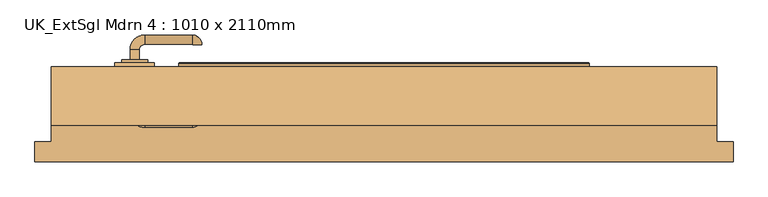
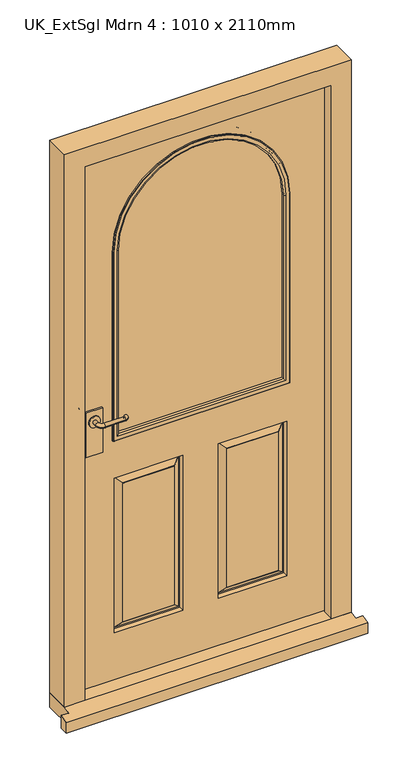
"""IFC4 building model written with IfcOpenShell, lengths in millimetres: door geometry, UK_ExtSgl Mdrn 4 : 1010 x 2110mm."""

from ifc_helpers import new_model, si_unit, point, frame, frame_2d, origin, place, context, project, spatial, polyline, circle_curve, ellipse_curve, trimmed, segment, composite_curve, outline, extrude, faceted_brep, source, transform, mapped, element, save
from ifc_brep_helpers import plane_surface, cylinder_surface, revolved_surface, advanced_brep


def uk_extsgl_mdrn_4_1010_x_2110mm_24322308(model_context):
    return source(origin(), model_context, "Body", "SolidModel", [
        extrude(outline(polyline([(-348.5, -62.2125), (-408.5, -62.2125), (-408.5, -56.2125), (-348.5, -56.2125), (-348.5, -62.2125)])), frame((0.0, 0.0, 925.0), z_axis=(0.0, 0.0, 1.0), x_axis=(1.0, 0.0, 0.0)), (0.0, 0.0, 1.0), 165.0),
        advanced_brep(
        [(-371.5, -51.6195105, 1050.0), (-385.5, -51.6195105, 1050.0), (-371.5, -36.2125, 1050.0), (-385.5, -36.2125, 1050.0), (-363.5, -14.2125, 1050.0), (-363.5, -28.2125, 1050.0), (-291.5, -28.2125, 1050.0), (-291.5, -14.2125, 1050.0), (-290.5, -29.2125, 1050.0), (-276.5, -29.2125, 1050.0)],
        [
            (0, 1, circle_curve(frame((-378.5, -51.6195105, 1050.0), z_axis=(0.0, -1.0, 0.0), x_axis=(-1.0, 0.0, 0.0)), 7.0)),
            (1, 0, circle_curve(frame((-378.5, -51.6195105, 1050.0), z_axis=(0.0, -1.0, 0.0), x_axis=(-1.0, 0.0, 0.0)), 7.0)),
            (0, 2),
            (2, 3, circle_curve(frame((-378.5, -36.2125, 1050.0), z_axis=(0.0, -1.0, 0.0), x_axis=(-1.0, 0.0, 0.0)), 7.0)),
            (3, 1),
            (3, 2, circle_curve(frame((-378.5, -36.2125, 1050.0), z_axis=(0.0, -1.0, 0.0), x_axis=(-1.0, 0.0, 0.0)), 7.0)),
            (4, 3, circle_curve(frame((-363.5, -36.2125, 1050.0), z_axis=(0.0, 0.0, 1.0), x_axis=(-1.0, 0.0, 0.0)), 22.0)),
            (2, 5, circle_curve(frame((-363.5, -36.2125, 1050.0), z_axis=(0.0, 0.0, -1.0), x_axis=(-1.0, 0.0, 0.0)), 8.0)),
            (5, 4, circle_curve(frame((-363.5, -21.2125, 1050.0), z_axis=(-1.0, 0.0, 0.0), x_axis=(0.0, 1.0, 0.0)), 7.0)),
            (4, 5, circle_curve(frame((-363.5, -21.2125, 1050.0), z_axis=(-1.0, 0.0, 0.0), x_axis=(0.0, 1.0, 0.0)), 7.0)),
            (5, 6),
            (6, 7, circle_curve(frame((-291.5, -21.2125, 1050.0), z_axis=(-1.0, 0.0, 0.0), x_axis=(0.0, 1.0, 0.0)), 7.0)),
            (7, 4),
            (7, 6, circle_curve(frame((-291.5, -21.2125, 1050.0), z_axis=(-1.0, 0.0, 0.0), x_axis=(0.0, 1.0, 0.0)), 7.0)),
            (8, 9, circle_curve(frame((-283.5, -29.2125, 1050.0), z_axis=(0.0, -1.0, 0.0), x_axis=(1.0, 0.0, 0.0)), 7.0)),
            (9, 8, circle_curve(frame((-283.5, -29.2125, 1050.0), z_axis=(0.0, -1.0, 0.0), x_axis=(1.0, 0.0, 0.0)), 7.0)),
            (9, 7, circle_curve(frame((-291.5, -29.2125, 1050.0), z_axis=(0.0, 0.0, 1.0), x_axis=(0.0, 1.0, 0.0)), 15.0)),
            (6, 8, circle_curve(frame((-291.5, -29.2125, 1050.0), z_axis=(0.0, 0.0, -1.0), x_axis=(0.0, 1.0, 0.0)), 1.0)),
        ],
        [
            plane_surface(frame((-378.5, -51.6195105, 1050.0), z_axis=(0.0, -1.0, 0.0), x_axis=(0.0, 0.0, 1.0))),
            cylinder_surface(frame((-378.5, -51.6195105, 1050.0), z_axis=(0.0, -1.0, 0.0), x_axis=(-1.0, 0.0, 0.0)), 7.0),
            revolved_surface(trimmed(ellipse_curve(frame((-378.5, -36.2125, 1050.0), z_axis=(0.0, -1.0, 0.0), x_axis=(-1.0, 0.0, 0.0)), 7.0, 7.0), [point((-371.5, -36.2125, 1050.0))], [point((-385.5, -36.2125, 1050.0))], True, "CARTESIAN"), (-363.5, -36.2125, 1050.0), (0.0, 0.0, -1.0)),
            revolved_surface(trimmed(ellipse_curve(frame((-378.5, -36.2125, 1050.0), z_axis=(0.0, -1.0, 0.0), x_axis=(-1.0, 0.0, 0.0)), 7.0, 7.0), [point((-385.5, -36.2125, 1050.0))], [point((-371.5, -36.2125, 1050.0))], True, "CARTESIAN"), (-363.5, -36.2125, 1050.0), (0.0, 0.0, -1.0)),
            cylinder_surface(frame((-363.5, -21.2125, 1050.0), z_axis=(-1.0, 0.0, 0.0), x_axis=(0.0, 1.0, 0.0)), 7.0),
            plane_surface(frame((-283.5, -29.2125, 1050.0), z_axis=(0.0, -1.0, 0.0), x_axis=(0.0, 0.0, 1.0))),
            revolved_surface(trimmed(ellipse_curve(frame((-291.5, -21.2125, 1050.0), z_axis=(-1.0, 0.0, 0.0), x_axis=(0.0, 1.0, 0.0)), 7.0, 7.0), [point((-291.5, -28.2125, 1050.0))], [point((-291.5, -14.2125, 1050.0))], True, "CARTESIAN"), (-291.5, -29.2125, 1050.0), (0.0, 0.0, -1.0)),
            revolved_surface(trimmed(ellipse_curve(frame((-291.5, -21.2125, 1050.0), z_axis=(-1.0, 0.0, 0.0), x_axis=(0.0, 1.0, 0.0)), 7.0, 7.0), [point((-291.5, -14.2125, 1050.0))], [point((-291.5, -28.2125, 1050.0))], True, "CARTESIAN"), (-291.5, -29.2125, 1050.0), (0.0, 0.0, -1.0)),
        ],
        [
            (0, [[1, 2]]),
            (1, [[-1, 3, 4, 5]]),
            (1, [[-2, -5, 6, -3]]),
            (2, [[7, -4, 8, 9]]),
            (3, [[-8, -6, -7, 10]]),
            (4, [[-9, 11, 12, 13]]),
            (4, [[-10, -13, 14, -11]]),
            (5, [[15, 16]]),
            (6, [[17, -12, 18, -16]]),
            (7, [[-18, -14, -17, -15]]),
        ],
    ),
        extrude(outline(composite_curve([segment(trimmed(circle_curve(frame_2d((1050.0, -378.5)), 20.0), [point((1050.0, -398.5))], [point((1050.0, -358.5))], False, "CARTESIAN"), True, "CONTINUOUS"), segment(trimmed(circle_curve(frame_2d((1050.0, -378.5)), 20.0), [point((1050.0, -358.5))], [point((1050.0, -398.5))], False, "CARTESIAN"), True, "CONTINUOUS")], self_intersect=False)), frame((0.0, -56.2125, 0.0), z_axis=(0.0, 1.0, 0.0), x_axis=(0.0, 0.0, 1.0)), (0.0, 0.0, 1.0), 4.5929895),
        extrude(outline(polyline([(-348.5, -106.2125), (-348.5, -112.2125), (-408.5, -112.2125), (-408.5, -106.2125), (-348.5, -106.2125)])), frame((0.0, 0.0, 925.0), z_axis=(0.0, 0.0, 1.0), x_axis=(1.0, 0.0, 0.0)), (0.0, 0.0, 1.0), 165.0),
        advanced_brep(
        [(-371.5, -116.8054895, 1050.0), (-385.5, -116.8054895, 1050.0), (-385.5, -132.2125, 1050.0), (-371.5, -132.2125, 1050.0), (-363.5, -154.2125, 1050.0), (-363.5, -140.2125, 1050.0), (-291.5, -154.2125, 1050.0), (-291.5, -140.2125, 1050.0), (-290.5, -139.2125, 1050.0), (-276.5, -139.2125, 1050.0)],
        [
            (0, 1, circle_curve(frame((-378.5, -116.8054895, 1050.0), z_axis=(0.0, 1.0, 0.0), x_axis=(-1.0, 0.0, 0.0)), 7.0)),
            (1, 0, circle_curve(frame((-378.5, -116.8054895, 1050.0), z_axis=(0.0, 1.0, 0.0), x_axis=(-1.0, 0.0, 0.0)), 7.0)),
            (1, 2),
            (2, 3, circle_curve(frame((-378.5, -132.2125, 1050.0), z_axis=(0.0, 1.0, 0.0), x_axis=(-1.0, 0.0, 0.0)), 7.0)),
            (3, 0),
            (3, 2, circle_curve(frame((-378.5, -132.2125, 1050.0), z_axis=(0.0, 1.0, 0.0), x_axis=(-1.0, 0.0, 0.0)), 7.0)),
            (4, 5, circle_curve(frame((-363.5, -147.2125, 1050.0), z_axis=(-1.0, 0.0, 0.0), x_axis=(0.0, -1.0, 0.0)), 7.0)),
            (5, 3, circle_curve(frame((-363.5, -132.2125, 1050.0), z_axis=(0.0, 0.0, -1.0), x_axis=(-1.0, 0.0, 0.0)), 8.0)),
            (2, 4, circle_curve(frame((-363.5, -132.2125, 1050.0), z_axis=(0.0, 0.0, 1.0), x_axis=(-1.0, 0.0, 0.0)), 22.0)),
            (5, 4, circle_curve(frame((-363.5, -147.2125, 1050.0), z_axis=(-1.0, 0.0, 0.0), x_axis=(0.0, -1.0, 0.0)), 7.0)),
            (4, 6),
            (6, 7, circle_curve(frame((-291.5, -147.2125, 1050.0), z_axis=(-1.0, 0.0, 0.0), x_axis=(0.0, -1.0, 0.0)), 7.0)),
            (7, 5),
            (7, 6, circle_curve(frame((-291.5, -147.2125, 1050.0), z_axis=(-1.0, 0.0, 0.0), x_axis=(0.0, -1.0, 0.0)), 7.0)),
            (8, 9, circle_curve(frame((-283.5, -139.2125, 1050.0), z_axis=(0.0, 1.0, 0.0), x_axis=(1.0, 0.0, 0.0)), 7.0)),
            (9, 8, circle_curve(frame((-283.5, -139.2125, 1050.0), z_axis=(0.0, 1.0, 0.0), x_axis=(1.0, 0.0, 0.0)), 7.0)),
            (8, 7, circle_curve(frame((-291.5, -139.2125, 1050.0), z_axis=(0.0, 0.0, -1.0), x_axis=(0.0, -1.0, 0.0)), 1.0)),
            (6, 9, circle_curve(frame((-291.5, -139.2125, 1050.0), z_axis=(0.0, 0.0, 1.0), x_axis=(0.0, -1.0, 0.0)), 15.0)),
        ],
        [
            plane_surface(frame((-378.5, -116.8054895, 1050.0), z_axis=(0.0, 1.0, 0.0), x_axis=(0.0, 0.0, 1.0))),
            cylinder_surface(frame((-378.5, -116.8054895, 1050.0), z_axis=(0.0, 1.0, 0.0), x_axis=(-1.0, 0.0, 0.0)), 7.0),
            revolved_surface(trimmed(ellipse_curve(frame((-378.5, -132.2125, 1050.0), z_axis=(0.0, -1.0, 0.0), x_axis=(-1.0, 0.0, 0.0)), 7.0, 7.0), [point((-371.5, -132.2125, 1050.0))], [point((-385.5, -132.2125, 1050.0))], True, "CARTESIAN"), (-363.5, -132.2125, 1050.0), (0.0, 0.0, -1.0)),
            revolved_surface(trimmed(ellipse_curve(frame((-378.5, -132.2125, 1050.0), z_axis=(0.0, -1.0, 0.0), x_axis=(-1.0, 0.0, 0.0)), 7.0, 7.0), [point((-385.5, -132.2125, 1050.0))], [point((-371.5, -132.2125, 1050.0))], True, "CARTESIAN"), (-363.5, -132.2125, 1050.0), (0.0, 0.0, -1.0)),
            cylinder_surface(frame((-363.5, -147.2125, 1050.0), z_axis=(-1.0, 0.0, 0.0), x_axis=(0.0, -1.0, 0.0)), 7.0),
            plane_surface(frame((-283.5, -139.2125, 1050.0), z_axis=(0.0, 1.0, 0.0), x_axis=(0.0, 0.0, 1.0))),
            revolved_surface(trimmed(ellipse_curve(frame((-291.5, -147.2125, 1050.0), z_axis=(1.0, 0.0, 0.0), x_axis=(0.0, -1.0, 0.0)), 7.0, 7.0), [point((-291.5, -140.2125, 1050.0))], [point((-291.5, -154.2125, 1050.0))], True, "CARTESIAN"), (-291.5, -139.2125, 1050.0), (0.0, 0.0, -1.0)),
            revolved_surface(trimmed(ellipse_curve(frame((-291.5, -147.2125, 1050.0), z_axis=(1.0, 0.0, 0.0), x_axis=(0.0, -1.0, 0.0)), 7.0, 7.0), [point((-291.5, -154.2125, 1050.0))], [point((-291.5, -140.2125, 1050.0))], True, "CARTESIAN"), (-291.5, -139.2125, 1050.0), (0.0, 0.0, -1.0)),
        ],
        [
            (0, [[1, 2]]),
            (1, [[3, 4, 5, -2]]),
            (1, [[-5, 6, -3, -1]]),
            (2, [[7, 8, -4, 9]]),
            (3, [[10, -9, -6, -8]]),
            (4, [[11, 12, 13, -7]]),
            (4, [[-13, 14, -11, -10]]),
            (5, [[15, 16]]),
            (6, [[-15, 17, -12, 18]]),
            (7, [[-16, -18, -14, -17]]),
        ],
    ),
        extrude(outline(composite_curve([segment(trimmed(circle_curve(frame_2d((1050.0, -378.5)), 20.0), [point((1050.0, -398.5))], [point((1050.0, -358.5))], False, "CARTESIAN"), True, "CONTINUOUS"), segment(trimmed(circle_curve(frame_2d((1050.0, -378.5)), 20.0), [point((1050.0, -358.5))], [point((1050.0, -398.5))], False, "CARTESIAN"), True, "CONTINUOUS")], self_intersect=False)), frame((0.0, -116.8054895, 0.0), z_axis=(0.0, 1.0, 0.0), x_axis=(0.0, 0.0, 1.0)), (0.0, 0.0, 1.0), 4.5929895),
        faceted_brep([(434.5, -151.2125, 54.5), (434.5, -109.2125, 54.5), (456.5, -109.2125, 54.5), (456.5, -62.2125, 54.5), (505.0, -62.2125, 54.5), (505.0, -151.2125, 54.5), (505.0, -151.2125, 2110.0), (-505.0, -151.2125, 2110.0), (-505.0, -151.2125, 54.5), (-434.5, -151.2125, 54.5), (-434.5, -151.2125, 2039.5), (434.5, -151.2125, 2039.5), (505.0, -62.2125, 2110.0), (456.5, -62.2125, 2061.5), (-456.5, -62.2125, 2061.5), (-456.5, -62.2125, 54.5), (-505.0, -62.2125, 54.5), (-505.0, -62.2125, 2110.0), (456.5, -109.2125, 2061.5), (434.5, -109.2125, 2039.5), (-434.5, -109.2125, 2039.5), (-434.5, -109.2125, 54.5), (-456.5, -109.2125, 54.5), (-456.5, -109.2125, 2061.5)], [[[0, 1, 2, 3, 4, 5]], [[5, 6, 7, 8, 9, 10, 11, 0]], [[4, 12, 6, 5]], [[3, 13, 14, 15, 16, 17, 12, 4]], [[2, 18, 13, 3]], [[1, 19, 20, 21, 22, 23, 18, 2]], [[0, 11, 19, 1]], [[6, 12, 17, 7]], [[13, 18, 23, 14]], [[10, 20, 19, 11]], [[8, 16, 15, 22, 21, 9]], [[7, 17, 16, 8]], [[14, 23, 22, 15]], [[9, 21, 20, 10]]]),
        extrude(outline(composite_curve([segment(polyline([(958.5, -303.5), (958.5, 303.5), (1655.0, 303.5)]), True, "CONTINUOUS"), segment(trimmed(circle_curve(frame_2d((1655.0, 0.0)), 303.5), [point((1655.0, 303.5))], [point((1655.0, -303.5))], False, "CARTESIAN"), True, "CONTINUOUS"), segment(polyline([(1655.0, -303.5), (958.5, -303.5)]), True, "CONTINUOUS")], self_intersect=False)), frame((0.0, -96.2125, 0.0), z_axis=(0.0, 1.0, 0.0), x_axis=(0.0, 0.0, 1.0)), (0.0, 0.0, 1.0), 24.0),
        faceted_brep([(530.0, -206.2125, 0.0), (530.0, -176.2125, 0.0), (530.0, -176.2125, 47.2703282), (530.0, -206.2125, 38.5947221), (-530.0, -206.2125, 38.5947221), (-530.0, -176.2125, 47.2703282), (-530.0, -176.2125, 0.0), (-530.0, -206.2125, 0.0), (-505.0, -176.2125, 0.0), (-505.0, -62.2125, 0.0), (505.0, -62.2125, 0.0), (505.0, -176.2125, 0.0), (505.0, -176.2125, 47.2703282), (505.0, -151.2125, 54.5), (-505.0, -151.2125, 54.5), (-505.0, -176.2125, 47.2703282), (505.0, -62.2125, 54.5), (-505.0, -62.2125, 54.5)], [[[0, 1, 2, 3]], [[4, 5, 6, 7]], [[7, 6, 8, 9, 10, 11, 1, 0]], [[3, 4, 7, 0]], [[3, 2, 12, 13, 14, 15, 5, 4]], [[14, 13, 16, 17]], [[17, 16, 10, 9]], [[15, 14, 17, 9, 8]], [[8, 6, 5, 15]], [[11, 10, 16, 13, 12]], [[12, 2, 1, 11]]]),
        advanced_brep(
        [(453.5, -62.2125, 58.5), (-454.4250294, -62.2125, 58.5), (-454.4250294, -62.2125, 2058.5), (453.5, -62.2125, 2058.5), (-303.5, -62.2125, 958.5), (303.5, -62.2125, 958.5), (303.5, -62.2125, 1655.0), (-303.5, -62.2125, 1655.0), (-62.5, -62.2125, 808.5), (-303.5, -62.2125, 808.5), (-303.5, -62.2125, 233.5), (-62.5, -62.2125, 233.5), (303.5, -62.2125, 808.5), (62.5, -62.2125, 808.5), (62.5, -62.2125, 233.5), (303.5, -62.2125, 233.5), (-92.5, -62.2125, 263.5), (-273.5, -62.2125, 263.5), (-273.5, -62.2125, 778.5), (-92.5, -62.2125, 778.5), (273.5, -62.2125, 263.5), (92.5, -62.2125, 263.5), (92.5, -62.2125, 778.5), (273.5, -62.2125, 778.5), (453.5, -106.2125, 58.5), (453.5, -106.2125, 2058.5), (-454.4250294, -106.2125, 2058.5), (-454.4250294, -106.2125, 58.5), (-303.5, -106.2125, 958.5), (-303.5, -106.2125, 1655.0), (303.5, -106.2125, 1655.0), (303.5, -106.2125, 958.5), (62.5, -106.2125, 808.5), (303.5, -106.2125, 808.5), (303.5, -106.2125, 233.5), (62.5, -106.2125, 233.5), (-303.5, -106.2125, 808.5), (-62.5, -106.2125, 808.5), (-62.5, -106.2125, 233.5), (-303.5, -106.2125, 233.5), (92.5, -106.2125, 263.5), (273.5, -106.2125, 263.5), (273.5, -106.2125, 778.5), (92.5, -106.2125, 778.5), (-273.5, -106.2125, 263.5), (-92.5, -106.2125, 263.5), (-92.5, -106.2125, 778.5), (-273.5, -106.2125, 778.5), (65.5, -91.2125, 805.5), (65.5, -91.2125, 236.5), (90.5, -105.2125, 780.5), (70.5, -91.2125, 800.5), (70.5, -91.2125, 241.5), (90.5, -105.2125, 261.5), (92.5, -105.2125, 778.5), (92.5, -105.2125, 263.5), (300.5, -91.2125, 236.5), (295.5, -91.2125, 241.5), (275.5, -105.2125, 261.5), (273.5, -105.2125, 263.5), (300.5, -91.2125, 805.5), (295.5, -91.2125, 800.5), (275.5, -105.2125, 780.5), (273.5, -105.2125, 778.5), (-300.5, -91.2125, 805.5), (-300.5, -91.2125, 236.5), (-275.5, -105.2125, 780.5), (-295.5, -91.2125, 800.5), (-295.5, -91.2125, 241.5), (-275.5, -105.2125, 261.5), (-273.5, -105.2125, 778.5), (-273.5, -105.2125, 263.5), (-65.5, -91.2125, 236.5), (-70.5, -91.2125, 241.5), (-90.5, -105.2125, 261.5), (-92.5, -105.2125, 263.5), (-65.5, -91.2125, 805.5), (-70.5, -91.2125, 800.5), (-90.5, -105.2125, 780.5), (-92.5, -105.2125, 778.5), (-92.5, -63.2125, 263.5), (-92.5, -63.2125, 778.5), (-70.5, -77.2125, 241.5), (-90.5, -63.2125, 261.5), (-90.5, -63.2125, 780.5), (-70.5, -77.2125, 800.5), (-65.5, -77.2125, 236.5), (-65.5, -77.2125, 805.5), (-273.5, -63.2125, 778.5), (-275.5, -63.2125, 780.5), (-295.5, -77.2125, 800.5), (-300.5, -77.2125, 805.5), (-273.5, -63.2125, 263.5), (-275.5, -63.2125, 261.5), (-295.5, -77.2125, 241.5), (-300.5, -77.2125, 236.5), (300.5, -77.2125, 805.5), (300.5, -77.2125, 236.5), (275.5, -63.2125, 780.5), (295.5, -77.2125, 800.5), (295.5, -77.2125, 241.5), (275.5, -63.2125, 261.5), (273.5, -63.2125, 778.5), (273.5, -63.2125, 263.5), (65.5, -77.2125, 236.5), (70.5, -77.2125, 241.5), (90.5, -63.2125, 261.5), (92.5, -63.2125, 263.5), (65.5, -77.2125, 805.5), (70.5, -77.2125, 800.5), (90.5, -63.2125, 780.5), (92.5, -63.2125, 778.5)],
        [
            (0, 1),
            (1, 2),
            (2, 3),
            (3, 0),
            (4, 5),
            (5, 6),
            (6, 7, circle_curve(frame((0.0, -62.2125, 1655.0), z_axis=(0.0, -1.0, 0.0), x_axis=(1.0, 0.0, 0.0)), 303.5)),
            (7, 4),
            (8, 9),
            (9, 10),
            (10, 11),
            (11, 8),
            (12, 13),
            (13, 14),
            (14, 15),
            (15, 12),
            (16, 17),
            (17, 18),
            (18, 19),
            (19, 16),
            (20, 21),
            (21, 22),
            (22, 23),
            (23, 20),
            (24, 25),
            (25, 26),
            (26, 27),
            (27, 24),
            (28, 29),
            (29, 30, circle_curve(frame((0.0, -106.2125, 1655.0), z_axis=(0.0, 1.0, 0.0), x_axis=(1.0, 0.0, 0.0)), 303.5)),
            (30, 31),
            (31, 28),
            (32, 33),
            (33, 34),
            (34, 35),
            (35, 32),
            (36, 37),
            (37, 38),
            (38, 39),
            (39, 36),
            (40, 41),
            (41, 42),
            (42, 43),
            (43, 40),
            (44, 45),
            (45, 46),
            (46, 47),
            (47, 44),
            (3, 25),
            (24, 0),
            (2, 26),
            (1, 27),
            (7, 29),
            (28, 4),
            (6, 30),
            (5, 31),
            (48, 32),
            (35, 49),
            (49, 48),
            (50, 51),
            (51, 52),
            (52, 53),
            (53, 50),
            (43, 54),
            (54, 55),
            (55, 40),
            (34, 56),
            (56, 49),
            (52, 57),
            (57, 58),
            (58, 53),
            (55, 59),
            (59, 41),
            (33, 60),
            (60, 56),
            (57, 61),
            (61, 62),
            (62, 58),
            (59, 63),
            (63, 42),
            (48, 60),
            (51, 61),
            (50, 62),
            (54, 63),
            (64, 36),
            (39, 65),
            (65, 64),
            (66, 67),
            (67, 68),
            (68, 69),
            (69, 66),
            (47, 70),
            (70, 71),
            (71, 44),
            (38, 72),
            (72, 65),
            (68, 73),
            (73, 74),
            (74, 69),
            (71, 75),
            (75, 45),
            (37, 76),
            (76, 72),
            (73, 77),
            (77, 78),
            (78, 74),
            (75, 79),
            (79, 46),
            (64, 76),
            (67, 77),
            (66, 78),
            (70, 79),
            (80, 16),
            (19, 81),
            (81, 80),
            (82, 83),
            (83, 84),
            (84, 85),
            (85, 82),
            (11, 86),
            (86, 87),
            (87, 8),
            (18, 88),
            (88, 81),
            (84, 89),
            (89, 90),
            (90, 85),
            (87, 91),
            (91, 9),
            (17, 92),
            (92, 88),
            (89, 93),
            (93, 94),
            (94, 90),
            (91, 95),
            (95, 10),
            (80, 92),
            (83, 93),
            (82, 94),
            (86, 95),
            (96, 12),
            (15, 97),
            (97, 96),
            (98, 99),
            (99, 100),
            (100, 101),
            (101, 98),
            (23, 102),
            (102, 103),
            (103, 20),
            (14, 104),
            (104, 97),
            (100, 105),
            (105, 106),
            (106, 101),
            (103, 107),
            (107, 21),
            (13, 108),
            (108, 104),
            (105, 109),
            (109, 110),
            (110, 106),
            (107, 111),
            (111, 22),
            (96, 108),
            (99, 109),
            (98, 110),
            (102, 111),
        ],
        [
            plane_surface(frame((453.5, -62.2125, 58.5), z_axis=(0.0, 1.0, 0.0), x_axis=(0.0, 0.0, 1.0))),
            plane_surface(frame((453.5, -106.2125, 58.5), z_axis=(0.0, -1.0, 0.0), x_axis=(0.0, 0.0, -1.0))),
            plane_surface(frame((453.5, -62.2125, 58.5), z_axis=(1.0, 0.0, 0.0), x_axis=(0.0, -1.0, 0.0))),
            plane_surface(frame((453.5, -62.2125, 2058.5), z_axis=(0.0, 0.0, 1.0), x_axis=(0.0, -1.0, 0.0))),
            plane_surface(frame((-454.4250294, -62.2125, 2058.5), z_axis=(-1.0, 0.0, 0.0), x_axis=(0.0, -1.0, 0.0))),
            plane_surface(frame((-454.4250294, -62.2125, 58.5), z_axis=(0.0, 0.0, -1.0), x_axis=(0.0, -1.0, 0.0))),
            plane_surface(frame((-303.5, -62.2125, 958.5), z_axis=(1.0, 0.0, 0.0), x_axis=(0.0, -1.0, 0.0))),
            revolved_surface(polyline([(303.5, -106.2125, 1655.0), (303.5, -62.2125, 1655.0)]), (0.0, -62.2125, 1655.0), (0.0, -1.0, 0.0)),
            plane_surface(frame((303.5, -62.2125, 1655.0), z_axis=(-1.0, 0.0, 0.0), x_axis=(0.0, -1.0, 0.0))),
            plane_surface(frame((303.5, -62.2125, 958.5), z_axis=(0.0, 0.0, 1.0), x_axis=(0.0, -1.0, 0.0))),
            plane_surface(frame((62.5, -106.2125, 808.5), z_axis=(0.9805806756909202, -0.19611613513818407, 0.0), x_axis=(0.0, 0.0, -1.0))),
            plane_surface(frame((70.5, -91.2125, 800.5), z_axis=(-0.5734623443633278, -0.8192319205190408, 0.0), x_axis=(0.0, 0.0, -1.0))),
            plane_surface(frame((92.5, -105.2125, 778.5), z_axis=(-1.0, 0.0, 0.0), x_axis=(0.0, 0.0, -1.0))),
            plane_surface(frame((62.5, -106.2125, 233.5), z_axis=(0.0, -0.19611613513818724, 0.9805806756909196), x_axis=(1.0, 0.0, 0.0))),
            plane_surface(frame((70.5, -91.2125, 241.5), z_axis=(0.0, -0.819231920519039, -0.5734623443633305), x_axis=(1.0, 0.0, 0.0))),
            plane_surface(frame((92.5, -105.2125, 263.5), z_axis=(0.0, 0.0, -1.0), x_axis=(1.0, 0.0, 0.0))),
            plane_surface(frame((303.5, -106.2125, 233.5), z_axis=(-0.9805806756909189, -0.1961161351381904, 0.0), x_axis=(0.0, 0.0, 1.0))),
            plane_surface(frame((295.5, -91.2125, 241.5), z_axis=(0.5734623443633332, -0.8192319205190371, 0.0), x_axis=(0.0, 0.0, 1.0))),
            plane_surface(frame((273.5, -105.2125, 263.5), z_axis=(1.0, 0.0, 0.0), x_axis=(0.0, 0.0, 1.0))),
            plane_surface(frame((303.5, -106.2125, 808.5), z_axis=(0.0, -0.19611613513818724, -0.9805806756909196), x_axis=(-1.0, 0.0, 0.0))),
            plane_surface(frame((300.5, -91.2125, 805.5), z_axis=(0.0, -1.0, 0.0), x_axis=(-1.0, 0.0, 0.0))),
            plane_surface(frame((295.5, -91.2125, 800.5), z_axis=(0.0, -0.819231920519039, 0.5734623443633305), x_axis=(-1.0, 0.0, 0.0))),
            plane_surface(frame((275.5, -105.2125, 780.5), z_axis=(0.0, -1.0, 0.0), x_axis=(-1.0, 0.0, 0.0))),
            plane_surface(frame((273.5, -105.2125, 778.5), z_axis=(0.0, 0.0, 1.0), x_axis=(-1.0, 0.0, 0.0))),
            plane_surface(frame((-303.5, -106.2125, 808.5), z_axis=(0.9805806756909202, -0.19611613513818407, 0.0), x_axis=(0.0, 0.0, -1.0))),
            plane_surface(frame((-295.5, -91.2125, 800.5), z_axis=(-0.5734623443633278, -0.8192319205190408, 0.0), x_axis=(0.0, 0.0, -1.0))),
            plane_surface(frame((-273.5, -105.2125, 778.5), z_axis=(-1.0, 0.0, 0.0), x_axis=(0.0, 0.0, -1.0))),
            plane_surface(frame((-303.5, -106.2125, 233.5), z_axis=(0.0, -0.19611613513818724, 0.9805806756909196), x_axis=(1.0, 0.0, 0.0))),
            plane_surface(frame((-295.5, -91.2125, 241.5), z_axis=(0.0, -0.819231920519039, -0.5734623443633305), x_axis=(1.0, 0.0, 0.0))),
            plane_surface(frame((-273.5, -105.2125, 263.5), z_axis=(0.0, 0.0, -1.0), x_axis=(1.0, 0.0, 0.0))),
            plane_surface(frame((-62.5, -106.2125, 233.5), z_axis=(-0.9805806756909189, -0.1961161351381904, 0.0), x_axis=(0.0, 0.0, 1.0))),
            plane_surface(frame((-70.5, -91.2125, 241.5), z_axis=(0.5734623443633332, -0.8192319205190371, 0.0), x_axis=(0.0, 0.0, 1.0))),
            plane_surface(frame((-92.5, -105.2125, 263.5), z_axis=(1.0, 0.0, 0.0), x_axis=(0.0, 0.0, 1.0))),
            plane_surface(frame((-62.5, -106.2125, 808.5), z_axis=(0.0, -0.19611613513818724, -0.9805806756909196), x_axis=(-1.0, 0.0, 0.0))),
            plane_surface(frame((-65.5, -91.2125, 805.5), z_axis=(0.0, -1.0, 0.0), x_axis=(-1.0, 0.0, 0.0))),
            plane_surface(frame((-70.5, -91.2125, 800.5), z_axis=(0.0, -0.819231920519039, 0.5734623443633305), x_axis=(-1.0, 0.0, 0.0))),
            plane_surface(frame((-90.5, -105.2125, 780.5), z_axis=(0.0, -1.0, 0.0), x_axis=(-1.0, 0.0, 0.0))),
            plane_surface(frame((-92.5, -105.2125, 778.5), z_axis=(0.0, 0.0, 1.0), x_axis=(-1.0, 0.0, 0.0))),
            plane_surface(frame((-92.5, -62.2125, 263.5), z_axis=(1.0, 0.0, 0.0), x_axis=(0.0, 0.0, 1.0))),
            plane_surface(frame((-90.5, -63.2125, 261.5), z_axis=(0.5734623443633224, 0.8192319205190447, 0.0), x_axis=(0.0, 0.0, 1.0))),
            plane_surface(frame((-65.5, -77.2125, 236.5), z_axis=(-0.9805806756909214, 0.1961161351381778, 0.0), x_axis=(0.0, 0.0, 1.0))),
            plane_surface(frame((-92.5, -62.2125, 778.5), z_axis=(0.0, 0.0, 1.0), x_axis=(-1.0, 0.0, 0.0))),
            plane_surface(frame((-90.5, -63.2125, 780.5), z_axis=(0.0, 0.8192319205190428, 0.5734623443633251), x_axis=(-1.0, 0.0, 0.0))),
            plane_surface(frame((-65.5, -77.2125, 805.5), z_axis=(0.0, 0.19611613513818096, -0.9805806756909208), x_axis=(-1.0, 0.0, 0.0))),
            plane_surface(frame((-273.5, -62.2125, 778.5), z_axis=(-1.0, 0.0, 0.0), x_axis=(0.0, 0.0, -1.0))),
            plane_surface(frame((-275.5, -63.2125, 780.5), z_axis=(-0.5734623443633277, 0.8192319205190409, 0.0), x_axis=(0.0, 0.0, -1.0))),
            plane_surface(frame((-300.5, -77.2125, 805.5), z_axis=(0.9805806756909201, 0.19611613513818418, 0.0), x_axis=(0.0, 0.0, -1.0))),
            plane_surface(frame((-273.5, -62.2125, 263.5), z_axis=(0.0, 0.0, -1.0), x_axis=(1.0, 0.0, 0.0))),
            plane_surface(frame((-273.5, -63.2125, 263.5), z_axis=(0.0, 1.0, 0.0), x_axis=(1.0, 0.0, 0.0))),
            plane_surface(frame((-275.5, -63.2125, 261.5), z_axis=(0.0, 0.8192319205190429, -0.573462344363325), x_axis=(1.0, 0.0, 0.0))),
            plane_surface(frame((-295.5, -77.2125, 241.5), z_axis=(0.0, 1.0, 0.0), x_axis=(1.0, 0.0, 0.0))),
            plane_surface(frame((-300.5, -77.2125, 236.5), z_axis=(0.0, 0.19611613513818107, 0.9805806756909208), x_axis=(1.0, 0.0, 0.0))),
            plane_surface(frame((303.5, -62.2125, 808.5), z_axis=(-0.9805806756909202, 0.19611613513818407, 0.0), x_axis=(0.0, 0.0, -1.0))),
            plane_surface(frame((295.5, -77.2125, 800.5), z_axis=(0.5734623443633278, 0.8192319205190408, 0.0), x_axis=(0.0, 0.0, -1.0))),
            plane_surface(frame((273.5, -63.2125, 778.5), z_axis=(1.0, 0.0, 0.0), x_axis=(0.0, 0.0, -1.0))),
            plane_surface(frame((303.5, -62.2125, 233.5), z_axis=(0.0, 0.19611613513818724, 0.9805806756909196), x_axis=(-1.0, 0.0, 0.0))),
            plane_surface(frame((295.5, -77.2125, 241.5), z_axis=(0.0, 0.819231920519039, -0.5734623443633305), x_axis=(-1.0, 0.0, 0.0))),
            plane_surface(frame((273.5, -63.2125, 263.5), z_axis=(0.0, 0.0, -1.0), x_axis=(-1.0, 0.0, 0.0))),
            plane_surface(frame((62.5, -62.2125, 233.5), z_axis=(0.9805806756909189, 0.19611613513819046, 0.0), x_axis=(0.0, 0.0, 1.0))),
            plane_surface(frame((70.5, -77.2125, 241.5), z_axis=(-0.5734623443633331, 0.8192319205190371, 0.0), x_axis=(0.0, 0.0, 1.0))),
            plane_surface(frame((92.5, -63.2125, 263.5), z_axis=(-1.0, 0.0, 0.0), x_axis=(0.0, 0.0, 1.0))),
            plane_surface(frame((62.5, -62.2125, 808.5), z_axis=(0.0, 0.19611613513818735, -0.9805806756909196), x_axis=(1.0, 0.0, 0.0))),
            plane_surface(frame((65.5, -77.2125, 805.5), z_axis=(0.0, 1.0, 0.0), x_axis=(1.0, 0.0, 0.0))),
            plane_surface(frame((70.5, -77.2125, 800.5), z_axis=(0.0, 0.819231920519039, 0.5734623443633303), x_axis=(1.0, 0.0, 0.0))),
            plane_surface(frame((90.5, -63.2125, 780.5), z_axis=(0.0, 1.0, 0.0), x_axis=(1.0, 0.0, 0.0))),
            plane_surface(frame((92.5, -63.2125, 778.5), z_axis=(0.0, 0.0, 1.0), x_axis=(1.0, 0.0, 0.0))),
        ],
        [
            (0, [[1, 2, 3, 4], [5, 6, 7, 8], [9, 10, 11, 12], [13, 14, 15, 16]]),
            (0, [[17, 18, 19, 20]]),
            (0, [[21, 22, 23, 24]]),
            (1, [[25, 26, 27, 28], [29, 30, 31, 32], [33, 34, 35, 36], [37, 38, 39, 40]]),
            (1, [[41, 42, 43, 44]]),
            (1, [[45, 46, 47, 48]]),
            (2, [[49, -25, 50, -4]]),
            (3, [[51, -26, -49, -3]]),
            (4, [[52, -27, -51, -2]]),
            (5, [[-50, -28, -52, -1]]),
            (6, [[53, -29, 54, -8]]),
            (7, [[55, -30, -53, -7]]),
            (8, [[56, -31, -55, -6]]),
            (9, [[-54, -32, -56, -5]]),
            (10, [[57, -36, 58, 59]]),
            (11, [[60, 61, 62, 63]]),
            (12, [[-44, 64, 65, 66]]),
            (13, [[-35, 67, 68, -58]]),
            (14, [[69, 70, 71, -62]]),
            (15, [[72, 73, -41, -66]]),
            (16, [[-34, 74, 75, -67]]),
            (17, [[76, 77, 78, -70]]),
            (18, [[79, 80, -42, -73]]),
            (19, [[81, -74, -33, -57]]),
            (20, [[-68, -75, -81, -59], [82, -76, -69, -61]]),
            (21, [[83, -77, -82, -60]]),
            (22, [[-71, -78, -83, -63], [84, -79, -72, -65]]),
            (23, [[-43, -80, -84, -64]]),
            (24, [[85, -40, 86, 87]]),
            (25, [[88, 89, 90, 91]]),
            (26, [[-48, 92, 93, 94]]),
            (27, [[-39, 95, 96, -86]]),
            (28, [[97, 98, 99, -90]]),
            (29, [[100, 101, -45, -94]]),
            (30, [[-38, 102, 103, -95]]),
            (31, [[104, 105, 106, -98]]),
            (32, [[107, 108, -46, -101]]),
            (33, [[109, -102, -37, -85]]),
            (34, [[-96, -103, -109, -87], [110, -104, -97, -89]]),
            (35, [[111, -105, -110, -88]]),
            (36, [[-99, -106, -111, -91], [112, -107, -100, -93]]),
            (37, [[-47, -108, -112, -92]]),
            (38, [[113, -20, 114, 115]]),
            (39, [[116, 117, 118, 119]]),
            (40, [[-12, 120, 121, 122]]),
            (41, [[-19, 123, 124, -114]]),
            (42, [[125, 126, 127, -118]]),
            (43, [[128, 129, -9, -122]]),
            (44, [[-18, 130, 131, -123]]),
            (45, [[132, 133, 134, -126]]),
            (46, [[135, 136, -10, -129]]),
            (47, [[137, -130, -17, -113]]),
            (48, [[138, -132, -125, -117], [-124, -131, -137, -115]]),
            (49, [[139, -133, -138, -116]]),
            (50, [[140, -135, -128, -121], [-127, -134, -139, -119]]),
            (51, [[-11, -136, -140, -120]]),
            (52, [[141, -16, 142, 143]]),
            (53, [[144, 145, 146, 147]]),
            (54, [[-24, 148, 149, 150]]),
            (55, [[-15, 151, 152, -142]]),
            (56, [[153, 154, 155, -146]]),
            (57, [[156, 157, -21, -150]]),
            (58, [[-14, 158, 159, -151]]),
            (59, [[160, 161, 162, -154]]),
            (60, [[163, 164, -22, -157]]),
            (61, [[165, -158, -13, -141]]),
            (62, [[-152, -159, -165, -143], [166, -160, -153, -145]]),
            (63, [[167, -161, -166, -144]]),
            (64, [[-155, -162, -167, -147], [168, -163, -156, -149]]),
            (65, [[-23, -164, -168, -148]]),
        ],
    ),
        advanced_brep(
        [(311.5, -58.2125, 950.5), (311.5, -58.2125, 1655.0), (311.5, -62.2125, 1655.0), (311.5, -62.2125, 950.5), (309.5, -56.2125, 952.5), (309.5, -56.2125, 1655.0), (291.5, -61.2125, 970.5), (291.5, -61.2125, 1655.0), (296.5, -56.2125, 1655.0), (296.5, -56.2125, 965.5), (291.5, -72.2125, 970.5), (291.5, -72.2125, 1655.0), (303.5, -62.2125, 958.5), (303.5, -62.2125, 1655.0), (303.5, -72.2125, 1655.0), (303.5, -72.2125, 958.5), (-311.5, -58.2125, 1655.0), (-311.5, -62.2125, 1655.0), (-309.5, -56.2125, 1655.0), (-309.5, -56.2125, 952.5), (-296.5, -56.2125, 1655.0), (-296.5, -56.2125, 965.5), (-291.5, -61.2125, 1655.0), (-291.5, -72.2125, 1655.0), (-303.5, -72.2125, 1655.0), (-303.5, -72.2125, 958.5), (-291.5, -72.2125, 970.5), (-303.5, -62.2125, 1655.0), (-311.5, -62.2125, 950.5), (-303.5, -62.2125, 958.5), (-311.5, -58.2125, 950.5), (-291.5, -61.2125, 970.5)],
        [
            (0, 1),
            (1, 2),
            (2, 3),
            (3, 0),
            (4, 5),
            (5, 1, circle_curve(frame((309.5, -58.2125, 1655.0), z_axis=(0.0, 0.0, -1.0), x_axis=(1.0, 0.0, 0.0)), 2.0)),
            (0, 4, ellipse_curve(frame((309.5, -58.2125, 952.5), z_axis=(0.707106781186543, 0.0, 0.707106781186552), x_axis=(0.707106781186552, 0.0, -0.707106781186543)), 2.8284271, 2.0)),
            (6, 7),
            (7, 8, circle_curve(frame((296.5, -61.2125, 1655.0), z_axis=(0.0, 0.0, -1.0), x_axis=(1.0, 0.0, 0.0)), 5.0)),
            (8, 9),
            (9, 6, ellipse_curve(frame((296.5, -61.2125, 965.5), z_axis=(0.707106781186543, 0.0, 0.707106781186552), x_axis=(0.707106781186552, 0.0, -0.707106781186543)), 7.0710678, 5.0)),
            (10, 11),
            (11, 7),
            (6, 10),
            (12, 13),
            (13, 14),
            (14, 15),
            (15, 12),
            (16, 17),
            (17, 2, circle_curve(frame((0.0, -62.2125, 1655.0), z_axis=(0.0, 1.0, 0.0), x_axis=(1.0, 0.0, 0.0)), 311.5)),
            (1, 16, circle_curve(frame((0.0, -58.2125, 1655.0), z_axis=(0.0, -1.0, 0.0), x_axis=(1.0, 0.0, 0.0)), 311.5)),
            (18, 16, circle_curve(frame((-309.5, -58.2125, 1655.0), z_axis=(0.0, 0.0, 1.0), x_axis=(-1.0, 0.0, 0.0)), 2.0)),
            (5, 18, circle_curve(frame((0.0, -56.2125, 1655.0), z_axis=(0.0, -1.0, 0.0), x_axis=(1.0, 0.0, 0.0)), 309.5)),
            (4, 19),
            (19, 18),
            (20, 21),
            (21, 9),
            (8, 20, circle_curve(frame((0.0, -56.2125, 1655.0), z_axis=(0.0, -1.0, 0.0), x_axis=(1.0, 0.0, 0.0)), 296.5)),
            (22, 20, circle_curve(frame((-296.5, -61.2125, 1655.0), z_axis=(0.0, 0.0, 1.0), x_axis=(-1.0, 0.0, 0.0)), 5.0)),
            (7, 22, circle_curve(frame((0.0, -61.2125, 1655.0), z_axis=(0.0, -1.0, 0.0), x_axis=(1.0, 0.0, 0.0)), 291.5)),
            (23, 22),
            (11, 23, circle_curve(frame((0.0, -72.2125, 1655.0), z_axis=(0.0, -1.0, 0.0), x_axis=(1.0, 0.0, 0.0)), 291.5)),
            (24, 25),
            (25, 15),
            (14, 24, circle_curve(frame((0.0, -72.2125, 1655.0), z_axis=(0.0, -1.0, 0.0), x_axis=(1.0, 0.0, 0.0)), 303.5)),
            (10, 26),
            (26, 23),
            (27, 24),
            (13, 27, circle_curve(frame((0.0, -62.2125, 1655.0), z_axis=(0.0, -1.0, 0.0), x_axis=(1.0, 0.0, 0.0)), 303.5)),
            (17, 28),
            (28, 3),
            (12, 29),
            (29, 27),
            (16, 30),
            (30, 28),
            (19, 30, ellipse_curve(frame((-309.5, -58.2125, 952.5), z_axis=(-0.7071067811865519, 0.0, 0.707106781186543), x_axis=(0.7071067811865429, 0.0, 0.707106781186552)), 2.8284271, 2.0)),
            (22, 31),
            (31, 21, ellipse_curve(frame((-296.5, -61.2125, 965.5), z_axis=(-0.7071067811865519, 0.0, 0.707106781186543), x_axis=(0.7071067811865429, 0.0, 0.707106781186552)), 7.0710678, 5.0)),
            (26, 31),
            (29, 25),
            (30, 0),
            (31, 6),
        ],
        [
            plane_surface(frame((311.5, -62.2125, 950.5), z_axis=(1.0, 0.0, 0.0), x_axis=(0.0, 0.0, 1.0))),
            cylinder_surface(frame((309.5, -58.2125, 958.5), z_axis=(0.0, 0.0, -1.0), x_axis=(1.0, 0.0, 0.0)), 2.0),
            cylinder_surface(frame((296.5, -61.2125, 958.5), z_axis=(0.0, 0.0, -1.0), x_axis=(1.0, 0.0, 0.0)), 5.0),
            plane_surface(frame((291.5, -61.2125, 970.5), z_axis=(-1.0, 0.0, 0.0), x_axis=(0.0, 0.0, 1.0))),
            plane_surface(frame((303.5, -72.2125, 958.5), z_axis=(1.0, 0.0, 0.0), x_axis=(0.0, 0.0, 1.0))),
            cylinder_surface(frame((0.0, -62.2125, 1655.0), z_axis=(0.0, 1.0, 0.0), x_axis=(1.0, 0.0, 0.0)), 311.5),
            revolved_surface(trimmed(ellipse_curve(frame((309.5, -58.2125, 1655.0), z_axis=(0.0, 0.0, 1.0), x_axis=(1.0, 0.0, 0.0)), 2.0, 2.0), [point((311.5, -58.2125, 1655.0))], [point((309.5, -56.2125, 1655.0))], True, "CARTESIAN"), (0.0, -62.2125, 1655.0), (0.0, 1.0, 0.0)),
            plane_surface(frame((0.0, -56.2125, 1655.0), z_axis=(0.0, 1.0, 0.0), x_axis=(1.0, 0.0, 0.0))),
            revolved_surface(trimmed(ellipse_curve(frame((296.5, -61.2125, 1655.0), z_axis=(0.0, 0.0, 1.0), x_axis=(1.0, 0.0, 0.0)), 5.0, 5.0), [point((296.5, -56.2125, 1655.0))], [point((291.5, -61.2125, 1655.0))], True, "CARTESIAN"), (0.0, -62.2125, 1655.0), (0.0, 1.0, 0.0)),
            revolved_surface(polyline([(291.5, -61.2125, 1655.0), (291.5, -72.2125, 1655.0)]), (0.0, -62.2125, 1655.0), (0.0, 1.0, 0.0)),
            plane_surface(frame((0.0, -72.2125, 1655.0), z_axis=(0.0, -1.0, 0.0), x_axis=(1.0, 0.0, 0.0))),
            cylinder_surface(frame((0.0, -62.2125, 1655.0), z_axis=(0.0, 1.0, 0.0), x_axis=(1.0, 0.0, 0.0)), 303.5),
            plane_surface(frame((0.0, -62.2125, 1655.0), z_axis=(0.0, -1.0, 0.0), x_axis=(1.0, 0.0, 0.0))),
            plane_surface(frame((-311.5, -62.2125, 1655.0), z_axis=(-1.0, 0.0, 0.0), x_axis=(0.0, 0.0, -1.0))),
            cylinder_surface(frame((-309.5, -58.2125, 1655.0), z_axis=(0.0, 0.0, 1.0), x_axis=(-1.0, 0.0, 0.0)), 2.0),
            cylinder_surface(frame((-296.5, -61.2125, 1655.0), z_axis=(0.0, 0.0, 1.0), x_axis=(-1.0, 0.0, 0.0)), 5.0),
            plane_surface(frame((-291.5, -61.2125, 1655.0), z_axis=(1.0, 0.0, 0.0), x_axis=(0.0, 0.0, -1.0))),
            plane_surface(frame((-303.5, -72.2125, 1655.0), z_axis=(-1.0, 0.0, 0.0), x_axis=(0.0, 0.0, -1.0))),
            plane_surface(frame((-311.5, -62.2125, 950.5), z_axis=(0.0, 0.0, -1.0), x_axis=(1.0, 0.0, 0.0))),
            cylinder_surface(frame((-303.5, -58.2125, 952.5), z_axis=(-1.0, 0.0, 0.0), x_axis=(0.0, 0.0, -1.0)), 2.0),
            cylinder_surface(frame((-303.5, -61.2125, 965.5), z_axis=(-1.0, 0.0, 0.0), x_axis=(0.0, 0.0, -1.0)), 5.0),
            plane_surface(frame((-291.5, -61.2125, 970.5), z_axis=(0.0, 0.0, 1.0), x_axis=(1.0, 0.0, 0.0))),
            plane_surface(frame((-303.5, -72.2125, 958.5), z_axis=(0.0, 0.0, -1.0), x_axis=(1.0, 0.0, 0.0))),
        ],
        [
            (0, [[1, 2, 3, 4]]),
            (1, [[5, 6, -1, 7]]),
            (2, [[8, 9, 10, 11]]),
            (3, [[12, 13, -8, 14]]),
            (4, [[15, 16, 17, 18]]),
            (5, [[19, 20, -2, 21]]),
            (6, [[22, -21, -6, 23]]),
            (7, [[-23, -5, 24, 25], [26, 27, -10, 28]]),
            (8, [[29, -28, -9, 30]]),
            (9, [[31, -30, -13, 32]]),
            (10, [[33, 34, -17, 35], [-32, -12, 36, 37]]),
            (11, [[38, -35, -16, 39]]),
            (12, [[40, 41, -3, -20], [-39, -15, 42, 43]]),
            (13, [[44, 45, -40, -19]]),
            (14, [[-25, 46, -44, -22]]),
            (15, [[47, 48, -26, -29]]),
            (16, [[-37, 49, -47, -31]]),
            (17, [[-43, 50, -33, -38]]),
            (18, [[51, -4, -41, -45]]),
            (19, [[-24, -7, -51, -46]]),
            (20, [[52, -11, -27, -48]]),
            (21, [[-36, -14, -52, -49]]),
            (22, [[-42, -18, -34, -50]]),
        ],
    ),
        advanced_brep(
        [(-311.5, -110.2125, 950.5), (-311.5, -110.2125, 1655.0), (-311.5, -106.2125, 1655.0), (-311.5, -106.2125, 950.5), (-309.5, -112.2125, 952.5), (-309.5, -112.2125, 1655.0), (-291.5, -107.2125, 970.5), (-291.5, -107.2125, 1655.0), (-296.5, -112.2125, 1655.0), (-296.5, -112.2125, 965.5), (-291.5, -96.2125, 970.5), (-291.5, -96.2125, 1655.0), (-303.5, -106.2125, 958.5), (-303.5, -106.2125, 1655.0), (-303.5, -96.2125, 1655.0), (-303.5, -96.2125, 958.5), (311.5, -110.2125, 1655.0), (311.5, -106.2125, 1655.0), (309.5, -112.2125, 1655.0), (309.5, -112.2125, 952.5), (296.5, -112.2125, 1655.0), (296.5, -112.2125, 965.5), (291.5, -107.2125, 1655.0), (291.5, -96.2125, 1655.0), (303.5, -96.2125, 1655.0), (303.5, -96.2125, 958.5), (291.5, -96.2125, 970.5), (303.5, -106.2125, 1655.0), (311.5, -106.2125, 950.5), (303.5, -106.2125, 958.5), (311.5, -110.2125, 950.5), (291.5, -107.2125, 970.5)],
        [
            (0, 1),
            (1, 2),
            (2, 3),
            (3, 0),
            (4, 5),
            (5, 1, circle_curve(frame((-309.5, -110.2125, 1655.0), z_axis=(0.0, 0.0, -1.0), x_axis=(-1.0, 0.0, 0.0)), 2.0)),
            (0, 4, ellipse_curve(frame((-309.5, -110.2125, 952.5), z_axis=(-0.7071067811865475, 0.0, 0.7071067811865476), x_axis=(-0.7071067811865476, 0.0, -0.7071067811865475)), 2.8284271, 2.0)),
            (6, 7),
            (7, 8, circle_curve(frame((-296.5, -107.2125, 1655.0), z_axis=(0.0, 0.0, -1.0), x_axis=(-1.0, 0.0, 0.0)), 5.0)),
            (8, 9),
            (9, 6, ellipse_curve(frame((-296.5, -107.2125, 965.5), z_axis=(-0.7071067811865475, 0.0, 0.7071067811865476), x_axis=(-0.7071067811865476, 0.0, -0.7071067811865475)), 7.0710678, 5.0)),
            (10, 11),
            (11, 7),
            (6, 10),
            (12, 13),
            (13, 14),
            (14, 15),
            (15, 12),
            (16, 17),
            (17, 2, circle_curve(frame((0.0, -106.2125, 1655.0), z_axis=(0.0, -1.0, 0.0), x_axis=(-1.0, 0.0, 0.0)), 311.5)),
            (1, 16, circle_curve(frame((0.0, -110.2125, 1655.0), z_axis=(0.0, 1.0, 0.0), x_axis=(-1.0, 0.0, 0.0)), 311.5)),
            (18, 16, circle_curve(frame((309.5, -110.2125, 1655.0), z_axis=(0.0, 0.0, 1.0), x_axis=(1.0, 0.0, 0.0)), 2.0)),
            (5, 18, circle_curve(frame((0.0, -112.2125, 1655.0), z_axis=(0.0, 1.0, 0.0), x_axis=(-1.0, 0.0, 0.0)), 309.5)),
            (4, 19),
            (19, 18),
            (20, 21),
            (21, 9),
            (8, 20, circle_curve(frame((0.0, -112.2125, 1655.0), z_axis=(0.0, 1.0, 0.0), x_axis=(-1.0, 0.0, 0.0)), 296.5)),
            (22, 20, circle_curve(frame((296.5, -107.2125, 1655.0), z_axis=(0.0, 0.0, 1.0), x_axis=(1.0, 0.0, 0.0)), 5.0)),
            (7, 22, circle_curve(frame((0.0, -107.2125, 1655.0), z_axis=(0.0, 1.0, 0.0), x_axis=(-1.0, 0.0, 0.0)), 291.5)),
            (23, 22),
            (11, 23, circle_curve(frame((0.0, -96.2125, 1655.0), z_axis=(0.0, 1.0, 0.0), x_axis=(-1.0, 0.0, 0.0)), 291.5)),
            (24, 25),
            (25, 15),
            (14, 24, circle_curve(frame((0.0, -96.2125, 1655.0), z_axis=(0.0, 1.0, 0.0), x_axis=(-1.0, 0.0, 0.0)), 303.5)),
            (10, 26),
            (26, 23),
            (27, 24),
            (13, 27, circle_curve(frame((0.0, -106.2125, 1655.0), z_axis=(0.0, 1.0, 0.0), x_axis=(-1.0, 0.0, 0.0)), 303.5)),
            (17, 28),
            (28, 3),
            (12, 29),
            (29, 27),
            (16, 30),
            (30, 28),
            (19, 30, ellipse_curve(frame((309.5, -110.2125, 952.5), z_axis=(0.7071067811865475, 0.0, 0.7071067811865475), x_axis=(-0.7071067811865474, 0.0, 0.7071067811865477)), 2.8284271, 2.0)),
            (22, 31),
            (31, 21, ellipse_curve(frame((296.5, -107.2125, 965.5), z_axis=(0.7071067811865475, 0.0, 0.7071067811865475), x_axis=(-0.7071067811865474, 0.0, 0.7071067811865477)), 7.0710678, 5.0)),
            (26, 31),
            (29, 25),
            (30, 0),
            (31, 6),
        ],
        [
            plane_surface(frame((-311.5, -106.2125, 950.5), z_axis=(-1.0, 0.0, 0.0), x_axis=(0.0, 0.0, 1.0))),
            cylinder_surface(frame((-309.5, -110.2125, 958.5), z_axis=(0.0, 0.0, -1.0), x_axis=(-1.0, 0.0, 0.0)), 2.0),
            cylinder_surface(frame((-296.5, -107.2125, 958.5), z_axis=(0.0, 0.0, -1.0), x_axis=(-1.0, 0.0, 0.0)), 5.0),
            plane_surface(frame((-291.5, -107.2125, 970.5), z_axis=(1.0, 0.0, 0.0), x_axis=(0.0, 0.0, 1.0))),
            plane_surface(frame((-303.5, -96.2125, 958.5), z_axis=(-1.0, 0.0, 0.0), x_axis=(0.0, 0.0, 1.0))),
            cylinder_surface(frame((0.0, -106.2125, 1655.0), z_axis=(0.0, -1.0, 0.0), x_axis=(-1.0, 0.0, 0.0)), 311.5),
            revolved_surface(trimmed(ellipse_curve(frame((-309.5, -110.2125, 1655.0), z_axis=(0.0, 0.0, 1.0), x_axis=(-1.0, 0.0, 0.0)), 2.0, 2.0), [point((-311.5, -110.2125, 1655.0))], [point((-309.5, -112.2125, 1655.0))], True, "CARTESIAN"), (0.0, -106.2125, 1655.0), (0.0, -1.0, 0.0)),
            plane_surface(frame((0.0, -112.2125, 1655.0), z_axis=(0.0, -1.0, 0.0), x_axis=(-1.0, 0.0, 0.0))),
            revolved_surface(trimmed(ellipse_curve(frame((-296.5, -107.2125, 1655.0), z_axis=(0.0, 0.0, 1.0), x_axis=(-1.0, 0.0, 0.0)), 5.0, 5.0), [point((-296.5, -112.2125, 1655.0))], [point((-291.5, -107.2125, 1655.0))], True, "CARTESIAN"), (0.0, -106.2125, 1655.0), (0.0, -1.0, 0.0)),
            revolved_surface(polyline([(-291.5, -107.2125, 1655.0), (-291.5, -96.2125, 1655.0)]), (0.0, -106.2125, 1655.0), (0.0, -1.0, 0.0)),
            plane_surface(frame((0.0, -96.2125, 1655.0), z_axis=(0.0, 1.0, 0.0), x_axis=(-1.0, 0.0, 0.0))),
            cylinder_surface(frame((0.0, -106.2125, 1655.0), z_axis=(0.0, -1.0, 0.0), x_axis=(-1.0, 0.0, 0.0)), 303.5),
            plane_surface(frame((0.0, -106.2125, 1655.0), z_axis=(0.0, 1.0, 0.0), x_axis=(-1.0, 0.0, 0.0))),
            plane_surface(frame((311.5, -106.2125, 1655.0), z_axis=(1.0, 0.0, 0.0), x_axis=(0.0, 0.0, -1.0))),
            cylinder_surface(frame((309.5, -110.2125, 1655.0), z_axis=(0.0, 0.0, 1.0), x_axis=(1.0, 0.0, 0.0)), 2.0),
            cylinder_surface(frame((296.5, -107.2125, 1655.0), z_axis=(0.0, 0.0, 1.0), x_axis=(1.0, 0.0, 0.0)), 5.0),
            plane_surface(frame((291.5, -107.2125, 1655.0), z_axis=(-1.0, 0.0, 0.0), x_axis=(0.0, 0.0, -1.0))),
            plane_surface(frame((303.5, -96.2125, 1655.0), z_axis=(1.0, 0.0, 0.0), x_axis=(0.0, 0.0, -1.0))),
            plane_surface(frame((311.5, -106.2125, 950.5), z_axis=(0.0, 0.0, -1.0), x_axis=(-1.0, 0.0, 0.0))),
            cylinder_surface(frame((303.5, -110.2125, 952.5), z_axis=(1.0, 0.0, 0.0), x_axis=(0.0, 0.0, -1.0)), 2.0),
            cylinder_surface(frame((303.5, -107.2125, 965.5), z_axis=(1.0, 0.0, 0.0), x_axis=(0.0, 0.0, -1.0)), 5.0),
            plane_surface(frame((291.5, -107.2125, 970.5), z_axis=(0.0, 0.0, 1.0), x_axis=(-1.0, 0.0, 0.0))),
            plane_surface(frame((303.5, -96.2125, 958.5), z_axis=(0.0, 0.0, -1.0), x_axis=(-1.0, 0.0, 0.0))),
        ],
        [
            (0, [[1, 2, 3, 4]]),
            (1, [[5, 6, -1, 7]]),
            (2, [[8, 9, 10, 11]]),
            (3, [[12, 13, -8, 14]]),
            (4, [[15, 16, 17, 18]]),
            (5, [[19, 20, -2, 21]]),
            (6, [[22, -21, -6, 23]]),
            (7, [[-23, -5, 24, 25], [26, 27, -10, 28]]),
            (8, [[29, -28, -9, 30]]),
            (9, [[31, -30, -13, 32]]),
            (10, [[33, 34, -17, 35], [-32, -12, 36, 37]]),
            (11, [[38, -35, -16, 39]]),
            (12, [[40, 41, -3, -20], [-39, -15, 42, 43]]),
            (13, [[44, 45, -40, -19]]),
            (14, [[-25, 46, -44, -22]]),
            (15, [[47, 48, -26, -29]]),
            (16, [[-37, 49, -47, -31]]),
            (17, [[-43, 50, -33, -38]]),
            (18, [[51, -4, -41, -45]]),
            (19, [[-24, -7, -51, -46]]),
            (20, [[52, -11, -27, -48]]),
            (21, [[-36, -14, -52, -49]]),
            (22, [[-42, -18, -34, -50]]),
        ],
    ),
        extrude(outline(composite_curve([segment(polyline([(958.5, 91.1666667), (958.5, 111.1666667), (1164.0, 111.1666667), (1164.0, 303.5), (1184.0, 303.5), (1184.0, 111.1666667), (1379.5, 111.1666667), (1379.5, 303.5), (1399.5, 303.5), (1399.5, 111.1666667), (1595.0, 111.1666667), (1595.0, 303.5), (1615.0, 303.5), (1615.0, 101.1666667)]), True, "CONTINUOUS"), segment(trimmed(circle_curve(frame_2d((1602.0, 0.0)), 101.9985022), [point((1615.0, 101.1666667))], [point((1668.3372796, 77.4794152))], False, "CARTESIAN"), True, "CONTINUOUS"), segment(polyline([(1668.3372796, 77.4794152), (1835.1259435, 244.2680791)]), True, "CONTINUOUS"), segment(trimmed(circle_curve(frame_2d((1655.0, 0.0)), 303.5), [point((1835.1259435, 244.2680791))], [point((1850.927745, 231.7856094))], False, "CARTESIAN"), True, "CONTINUOUS"), segment(polyline([(1850.927745, 231.7856094), (1682.1838042, 63.0416686)]), True, "CONTINUOUS"), segment(trimmed(circle_curve(frame_2d((1602.0, 0.0)), 101.9985022), [point((1682.1838042, 63.0416686))], [point((1703.5071152, 10.0))], False, "CARTESIAN"), True, "CONTINUOUS"), segment(polyline([(1703.5071152, 10.0), (1958.3352106, 10.0)]), True, "CONTINUOUS"), segment(trimmed(circle_curve(frame_2d((1655.0, 0.0)), 303.5), [point((1958.3352106, 10.0))], [point((1958.3352106, -10.0))], False, "CARTESIAN"), True, "CONTINUOUS"), segment(polyline([(1958.3352106, -10.0), (1703.5071152, -10.0)]), True, "CONTINUOUS"), segment(trimmed(circle_curve(frame_2d((1602.0, 0.0)), 101.9985022), [point((1703.5071152, -10.0))], [point((1682.1838042, -63.0416686))], False, "CARTESIAN"), True, "CONTINUOUS"), segment(polyline([(1682.1838042, -63.0416686), (1850.927745, -231.7856094)]), True, "CONTINUOUS"), segment(trimmed(circle_curve(frame_2d((1655.0, 0.0)), 303.5), [point((1850.927745, -231.7856094))], [point((1835.1259435, -244.2680791))], False, "CARTESIAN"), True, "CONTINUOUS"), segment(polyline([(1835.1259435, -244.2680791), (1668.3372796, -77.4794152)]), True, "CONTINUOUS"), segment(trimmed(circle_curve(frame_2d((1602.0, 0.0)), 101.9985022), [point((1668.3372796, -77.4794152))], [point((1615.0, -101.1666667))], False, "CARTESIAN"), True, "CONTINUOUS"), segment(polyline([(1615.0, -101.1666667), (1615.0, -303.5), (1595.0, -303.5), (1595.0, -111.1666667), (1399.5, -111.1666667), (1399.5, -303.5), (1379.5, -303.5), (1379.5, -111.1666667), (1184.0, -111.1666667), (1184.0, -303.5), (1164.0, -303.5), (1164.0, -111.1666667), (958.5, -111.1666667), (958.5, -91.1666667), (1164.0, -91.1666667), (1164.0, 91.1666667), (958.5, 91.1666667)]), True, "CONTINUOUS")], self_intersect=False), holes=[polyline([(1595.0, 91.1666667), (1399.5, 91.1666667), (1399.5, -91.1666667), (1595.0, -91.1666667), (1595.0, 91.1666667)]), polyline([(1379.5, -91.1666667), (1379.5, 91.1666667), (1184.0, 91.1666667), (1184.0, -91.1666667), (1379.5, -91.1666667)])]), frame((0.0, -88.2125, 0.0), z_axis=(0.0, 1.0, 0.0), x_axis=(0.0, 0.0, 1.0)), (0.0, 0.0, 1.0), 8.0),
    ])


if __name__ == "__main__":
    model = new_model("IFC4")
    model_context = context("Model", 3, world=origin())
    ifc_project = project(units=[si_unit("LENGTHUNIT", "METRE", prefix="MILLI")], contexts=[model_context])
    site = spatial("IfcSite", under=ifc_project)
    building = spatial("IfcBuilding", under=site)
    placement = place(None, origin())
    uk_extsgl_mdrn_4_1010_x_2110mm_shape = uk_extsgl_mdrn_4_1010_x_2110mm_24322308(model_context)
    element("IfcDoor", 1, ObjectType="UK_ExtSgl Mdrn 4 : 1010 x 2110mm", at=placement, inside=building, context=model_context, shape_type="MappedRepresentation", body=[
        mapped(uk_extsgl_mdrn_4_1010_x_2110mm_shape, transform((0.0, 0.0, 0.0), x_axis=(1.0, 0.0, 0.0), y_axis=(0.0, 1.0, 0.0), z_axis=(0.0, 0.0, 1.0))),
    ])
    save(model, "model.ifc")
